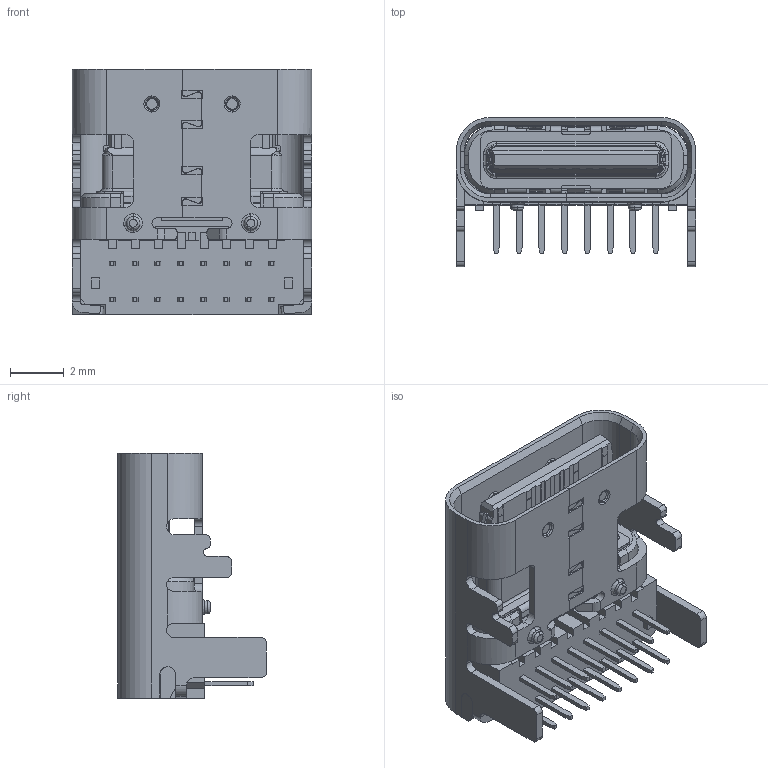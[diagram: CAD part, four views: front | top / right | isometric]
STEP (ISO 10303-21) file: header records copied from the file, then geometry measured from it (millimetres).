
FILE_DESCRIPTION(('STEP AP214'),'1');
FILE_NAME('USB4085-GF-A.stp.stp','2025-12-22T16:42:24',(' '),(' '),'Spatial InterOp 3D',' ',' ');
FILE_SCHEMA(('AUTOMOTIVE_DESIGN { 1 0 10303 214 1 1 1 1 }'));
Length unit declared in the file: millimetre
Products named in the file (4): USB4085-GF-A; USB4085-GF-A_PART1; USB4085-GF-A_PART2; USB4085-GF-A_PART3
Assembly tree (3 placements, depth 2):
  USB4085-GF-A
    USB4085-GF-A_PART1
    USB4085-GF-A_PART2
    USB4085-GF-A_PART3
Bounding box: 8.94 x 5.56 x 9.17 mm (x, y, z)
Volume: 49.1 mm3; surface area: 1099.8 mm2
Topology: 1 solids, 1332 shells, 2645 faces, 10911 edges, 9629 vertices
Faces by surface type: plane 2155, cylinder 356, bspline 112, cone 22
Entity records: 139261 total; most frequent: CARTESIAN_POINT 37323, DIRECTION 16628, ORIENTED_EDGE 13913, EDGE_CURVE 10911, VERTEX_POINT 9629, LINE 9170, VECTOR 9170, AXIS2_PLACEMENT_3D 3729
